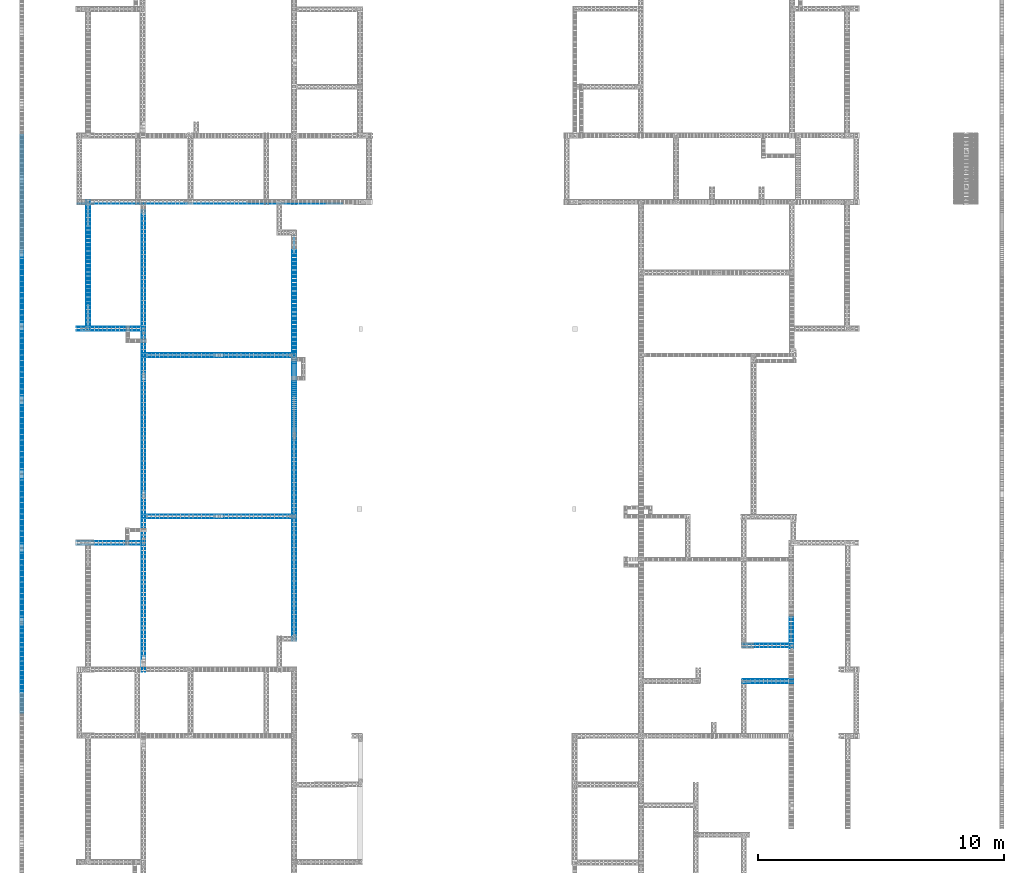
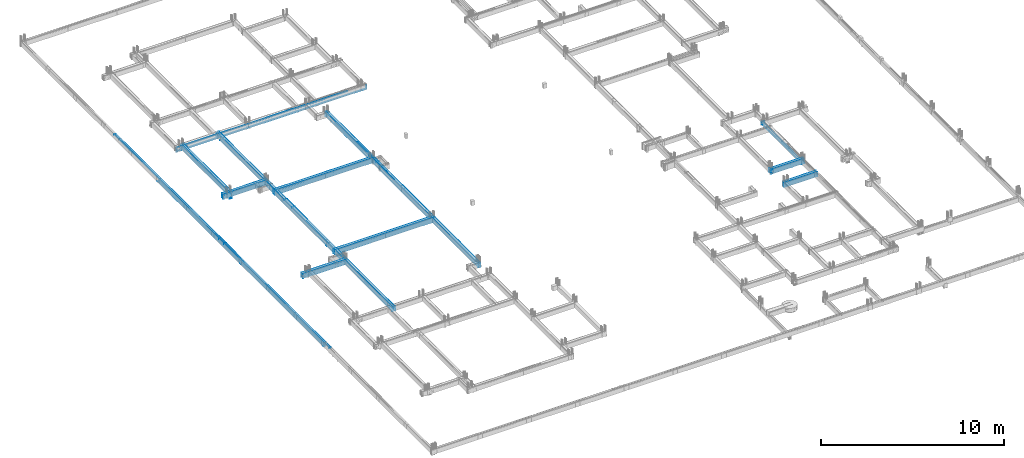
# One storey, part 10 of 150: 60 reinforcing bars.
"""IFC4 building model written with IfcOpenShell, lengths in centimetres."""

from ifc_helpers import new_model, entity, si_unit, derived_unit, frame, origin_with_axes, place, context, project, spatial, element, save


model = new_model("IFC4")

# Units and contexts
model_context = context("Model", 3, precision=1e-05, world=origin_with_axes(), identifier="Body")
ifc_project = project(units=[si_unit("LENGTHUNIT", "METRE", prefix="CENTI"), si_unit("VOLUMEUNIT", "CUBIC_METRE"), si_unit("AREAUNIT", "SQUARE_METRE"), si_unit("POWERUNIT", "WATT"), si_unit("LUMINOUSFLUXUNIT", "LUMEN"), si_unit("ELECTRICCURRENTUNIT", "AMPERE"), si_unit("PRESSUREUNIT", "PASCAL", prefix="KILO"), si_unit("MASSUNIT", "GRAM", prefix="KILO"), si_unit("PLANEANGLEUNIT", "RADIAN"), derived_unit("VOLUMETRICFLOWRATEUNIT", [(si_unit("LENGTHUNIT", "METRE"), 3), (si_unit("TIMEUNIT", "SECOND"), -1)])], contexts=[model_context])

# Site, building, storey
site_placement = place(None, frame((-4000.0, 0.0, 0.0), z_axis=(0.0, 0.0, 1.0), x_axis=(1.0, 0.0, 0.0)))
site = spatial("IfcSite", under=ifc_project, at=site_placement, Name="PADRÃO")
building_placement = place(site_placement, frame((0.0, 0.0, -14.0)))
building = spatial("IfcBuilding", under=site, at=building_placement, Name="CRECHE PRÉ-ESCOLA TIPO 2")
placement = place(building_placement, origin_with_axes())
storey_placement = place(placement, frame((0.0, 0.0, 30.0), z_axis=(0.0, 0.0, 1.0), x_axis=(1.0, 0.0, 0.0)))
storey = spatial("IfcBuildingStorey", under=building, at=storey_placement, Name="VIGA BALDRAME", CompositionType="ELEMENT", Elevation=16.0)

# Reinforcing bars
reinforcing_bar_1_placement = place(storey_placement, frame((463.7381248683, 3192.92, -3.2095935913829), z_axis=(0.0, 0.0, 1.0), x_axis=(1.0, 0.0, 0.0)))
element("IfcReinforcingBar", 1, at=reinforcing_bar_1_placement, inside=storey, Name="V113 - Longitudinal inferior", BarLength=0.0, CrossSectionArea=5.0265482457e-05, NominalDiameter=0.8, PredefinedType="MAIN", context=model_context, shape_type="AdvancedSweptSolid", body=[
    entity("IfcSweptDiskSolid", entity("IfcCompositeCurve", [entity("IfcCompositeCurveSegment", "CONTINUOUS", True, entity("IfcPolyline", [entity("IfcCartesianPoint", [-227.5981248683, 0.0, 0.0]), entity("IfcCartesianPoint", [-227.5981248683, 0.0, -23.8904064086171])])), entity("IfcCompositeCurveSegment", "CONTINUOUS", True, entity("IfcPolyline", [entity("IfcCartesianPoint", [-227.5981248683, 0.0, -23.8904064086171]), entity("IfcCartesianPoint", [228.0018751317, 0.0, -23.8904064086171])]))], False), 0.4),
])
reinforcing_bar_2_placement = place(storey_placement, frame((1054.51734391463, 3193.02, -4.15402858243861), z_axis=(0.0, 0.0, 1.0), x_axis=(1.0, 0.0, 0.0)))
element("IfcReinforcingBar", 2, at=reinforcing_bar_2_placement, inside=storey, Name="V113 - Longitudinal inferior", BarLength=0.0, CrossSectionArea=7.853981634e-05, NominalDiameter=1.0, PredefinedType="MAIN", context=model_context, shape_type="AdvancedSweptSolid", body=[
    entity("IfcSweptDiskSolid", entity("IfcCompositeCurve", [entity("IfcCompositeCurveSegment", "CONTINUOUS", True, entity("IfcPolyline", [entity("IfcCartesianPoint", [-374.517343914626, 0.0, -22.8459714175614]), entity("IfcCartesianPoint", [374.012656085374, 0.0, -22.8459714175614])])), entity("IfcCompositeCurveSegment", "CONTINUOUS", True, entity("IfcPolyline", [entity("IfcCartesianPoint", [374.012656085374, 0.0, -22.8459714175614]), entity("IfcCartesianPoint", [374.012656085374, 0.0, 0.0])]))], False), 0.5),
])
reinforcing_bar_3_placement = place(storey_placement, frame((773.252656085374, 3193.02, -2.49531217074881), z_axis=(0.0, 0.0, 1.0), x_axis=(1.0, 0.0, 0.0)))
element("IfcReinforcingBar", 3, at=reinforcing_bar_3_placement, inside=storey, Name="V113 - Longitudinal superior", BarLength=0.0, CrossSectionArea=7.853981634e-05, NominalDiameter=1.0, PredefinedType="MAIN", context=model_context, shape_type="AdvancedSweptSolid", body=[
    entity("IfcSweptDiskSolid", entity("IfcCompositeCurve", [entity("IfcCompositeCurveSegment", "CONTINUOUS", True, entity("IfcPolyline", [entity("IfcCartesianPoint", [-537.012656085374, 0.0, -26.5046878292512]), entity("IfcCartesianPoint", [-537.012656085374, 0.0, -0.504687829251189])])), entity("IfcCompositeCurveSegment", "CONTINUOUS", True, entity("IfcPolyline", [entity("IfcCartesianPoint", [-537.012656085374, 0.0, -0.504687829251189]), entity("IfcCartesianPoint", [537.517343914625, 0.0, -0.504687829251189])]))], False), 0.5),
])
for number, where, z_axis, x_axis, name in (
    (4, (370.87, 2692.11, -26.7), (0.0, 0.0, 1.0), (1.0, 0.0, 0.0), "V117 - Longitudinal inferior"),
    (5, (370.87, 2677.91, -26.7), (0.0, 0.0, 1.0), (1.0, 0.0, 0.0), "V117 - Longitudinal inferior"),
):
    element("IfcReinforcingBar", number, at=place(storey_placement, frame(where, z_axis=z_axis, x_axis=x_axis)), inside=storey, Name=name, BarLength=0.0, CrossSectionArea=5.0265482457e-05, NominalDiameter=0.8, PredefinedType="MAIN", context=model_context, shape_type="AdvancedSweptSolid", body=[
        entity("IfcSweptDiskSolid", entity("IfcCompositeCurve", [entity("IfcCompositeCurveSegment", "CONTINUOUS", True, entity("IfcPolyline", [entity("IfcCartesianPoint", [-137.82, 0.0, -0.4]), entity("IfcCartesianPoint", [137.82, 0.0, -0.4])]))], False), 0.4),
    ])
for number, where, z_axis, x_axis, name in (
    (6, (370.87, 2677.91, -2.49624973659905), (0.0, 0.0, 1.0), (1.0, 0.0, 0.0), "V117 - Longitudinal superior"),
    (7, (370.87, 2692.11, -2.49624973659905), (0.0, 0.0, 1.0), (1.0, 0.0, 0.0), "V117 - Longitudinal superior"),
):
    element("IfcReinforcingBar", number, at=place(storey_placement, frame(where, z_axis=z_axis, x_axis=x_axis)), inside=storey, Name=name, BarLength=0.0, CrossSectionArea=5.0265482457e-05, NominalDiameter=0.8, PredefinedType="MAIN", context=model_context, shape_type="AdvancedSweptSolid", body=[
        entity("IfcSweptDiskSolid", entity("IfcCompositeCurve", [entity("IfcCompositeCurveSegment", "CONTINUOUS", True, entity("IfcPolyline", [entity("IfcCartesianPoint", [-137.42, 0.0, -26.403750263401]), entity("IfcCartesianPoint", [-137.42, 0.0, -0.403750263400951])])), entity("IfcCompositeCurveSegment", "CONTINUOUS", True, entity("IfcPolyline", [entity("IfcCartesianPoint", [-137.42, 0.0, -0.403750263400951]), entity("IfcCartesianPoint", [137.42, 0.0, -0.403750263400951])])), entity("IfcCompositeCurveSegment", "CONTINUOUS", True, entity("IfcPolyline", [entity("IfcCartesianPoint", [137.42, 0.0, -0.403750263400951]), entity("IfcCartesianPoint", [137.42, 0.0, -24.2941566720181])]))], False), 0.4),
    ])
for number, where, z_axis, x_axis, name in (
    (8, (809.205, 2584.5, -26.5), (0.0, 0.0, 1.0), (1.0, 0.0, 0.0), "V120 - Longitudinal inferior"),
    (9, (809.205, 2570.5, -26.5), (0.0, 0.0, 1.0), (1.0, 0.0, 0.0), "V120 - Longitudinal inferior"),
):
    element("IfcReinforcingBar", number, at=place(storey_placement, frame(where, z_axis=z_axis, x_axis=x_axis)), inside=storey, Name=name, BarLength=0.0, CrossSectionArea=7.853981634e-05, NominalDiameter=1.0, PredefinedType="MAIN", context=model_context, shape_type="AdvancedSweptSolid", body=[
        entity("IfcSweptDiskSolid", entity("IfcCompositeCurve", [entity("IfcCompositeCurveSegment", "CONTINUOUS", True, entity("IfcPolyline", [entity("IfcCartesianPoint", [-313.515, 0.0, -0.5]), entity("IfcCartesianPoint", [313.515, 0.0, -0.5])]))], False), 0.5),
    ])
for number, where, z_axis, x_axis, name in (
    (10, (809.205, 2570.5, -2.49531217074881), (0.0, 0.0, 1.0), (1.0, 0.0, 0.0), "V120 - Longitudinal superior"),
    (11, (809.205, 2584.5, -2.49531217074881), (0.0, 0.0, 1.0), (1.0, 0.0, 0.0), "V120 - Longitudinal superior"),
):
    element("IfcReinforcingBar", number, at=place(storey_placement, frame(where, z_axis=z_axis, x_axis=x_axis)), inside=storey, Name=name, BarLength=0.0, CrossSectionArea=7.853981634e-05, NominalDiameter=1.0, PredefinedType="MAIN", context=model_context, shape_type="AdvancedSweptSolid", body=[
        entity("IfcSweptDiskSolid", entity("IfcCompositeCurve", [entity("IfcCompositeCurveSegment", "CONTINUOUS", True, entity("IfcPolyline", [entity("IfcCartesianPoint", [-313.015, 0.0, -26.5046878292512]), entity("IfcCartesianPoint", [-313.015, 0.0, -0.504687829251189])])), entity("IfcCompositeCurveSegment", "CONTINUOUS", True, entity("IfcPolyline", [entity("IfcCartesianPoint", [-313.015, 0.0, -0.504687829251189]), entity("IfcCartesianPoint", [313.015, 0.0, -0.504687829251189])])), entity("IfcCompositeCurveSegment", "CONTINUOUS", True, entity("IfcPolyline", [entity("IfcCartesianPoint", [313.015, 0.0, -0.504687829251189]), entity("IfcCartesianPoint", [313.015, 0.0, -10.5046878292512])]))], False), 0.5),
    ])
for number, where, z_axis, x_axis, name in (
    (12, (809.205, 1915.5, -26.5), (0.0, 0.0, 1.0), (1.0, 0.0, 0.0), "V125 - Longitudinal inferior"),
    (13, (809.205, 1929.5, -26.5), (0.0, 0.0, 1.0), (1.0, 0.0, 0.0), "V125 - Longitudinal inferior"),
):
    element("IfcReinforcingBar", number, at=place(storey_placement, frame(where, z_axis=z_axis, x_axis=x_axis)), inside=storey, Name=name, BarLength=0.0, CrossSectionArea=7.853981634e-05, NominalDiameter=1.0, PredefinedType="MAIN", context=model_context, shape_type="AdvancedSweptSolid", body=[
        entity("IfcSweptDiskSolid", entity("IfcCompositeCurve", [entity("IfcCompositeCurveSegment", "CONTINUOUS", True, entity("IfcPolyline", [entity("IfcCartesianPoint", [-313.515, 0.0, -0.5]), entity("IfcCartesianPoint", [313.515, 0.0, -0.5])]))], False), 0.5),
    ])
for number, where, z_axis, x_axis, name in (
    (14, (809.205, 1915.5, -2.49531217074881), (0.0, 0.0, 1.0), (1.0, 0.0, 0.0), "V125 - Longitudinal superior"),
    (15, (809.205, 1929.5, -2.49531217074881), (0.0, 0.0, 1.0), (1.0, 0.0, 0.0), "V125 - Longitudinal superior"),
):
    element("IfcReinforcingBar", number, at=place(storey_placement, frame(where, z_axis=z_axis, x_axis=x_axis)), inside=storey, Name=name, BarLength=0.0, CrossSectionArea=7.853981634e-05, NominalDiameter=1.0, PredefinedType="MAIN", context=model_context, shape_type="AdvancedSweptSolid", body=[
        entity("IfcSweptDiskSolid", entity("IfcCompositeCurve", [entity("IfcCompositeCurveSegment", "CONTINUOUS", True, entity("IfcPolyline", [entity("IfcCartesianPoint", [-313.015, 0.0, -26.5046878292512]), entity("IfcCartesianPoint", [-313.015, 0.0, -0.504687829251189])])), entity("IfcCompositeCurveSegment", "CONTINUOUS", True, entity("IfcPolyline", [entity("IfcCartesianPoint", [-313.015, 0.0, -0.504687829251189]), entity("IfcCartesianPoint", [313.015, 0.0, -0.504687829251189])])), entity("IfcCompositeCurveSegment", "CONTINUOUS", True, entity("IfcPolyline", [entity("IfcCartesianPoint", [313.015, 0.0, -0.504687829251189]), entity("IfcCartesianPoint", [313.015, 0.0, -10.5046878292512])]))], False), 0.5),
    ])
for number, where, z_axis, x_axis, name in (
    (16, (370.892343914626, 1822.0, -15.0), (0.0, 0.0, 1.0), (1.0, 0.0, 0.0), "V130 - Longitudinal inferior"),
    (17, (370.892343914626, 1808.0, -15.0), (0.0, 0.0, 1.0), (1.0, 0.0, 0.0), "V130 - Longitudinal inferior"),
):
    element("IfcReinforcingBar", number, at=place(storey_placement, frame(where, z_axis=z_axis, x_axis=x_axis)), inside=storey, Name=name, BarLength=0.0, CrossSectionArea=7.853981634e-05, NominalDiameter=1.0, PredefinedType="MAIN", context=model_context, shape_type="AdvancedSweptSolid", body=[
        entity("IfcSweptDiskSolid", entity("IfcCompositeCurve", [entity("IfcCompositeCurveSegment", "CONTINUOUS", True, entity("IfcPolyline", [entity("IfcCartesianPoint", [-137.802343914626, 0.0, -12.0]), entity("IfcCartesianPoint", [137.297656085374, 0.0, -12.0])])), entity("IfcCompositeCurveSegment", "CONTINUOUS", True, entity("IfcPolyline", [entity("IfcCartesianPoint", [137.297656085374, 0.0, -12.0]), entity("IfcCartesianPoint", [137.297656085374, 0.0, 0.0])]))], False), 0.5),
    ])
for number, where, z_axis, x_axis, name in (
    (18, (370.89, 1808.0, -2.49531217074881), (0.0, 0.0, 1.0), (1.0, 0.0, 0.0), "V130 - Longitudinal superior"),
    (19, (370.89, 1822.0, -2.49531217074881), (0.0, 0.0, 1.0), (1.0, 0.0, 0.0), "V130 - Longitudinal superior"),
):
    element("IfcReinforcingBar", number, at=place(storey_placement, frame(where, z_axis=z_axis, x_axis=x_axis)), inside=storey, Name=name, BarLength=0.0, CrossSectionArea=7.853981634e-05, NominalDiameter=1.0, PredefinedType="MAIN", context=model_context, shape_type="AdvancedSweptSolid", body=[
        entity("IfcSweptDiskSolid", entity("IfcCompositeCurve", [entity("IfcCompositeCurveSegment", "CONTINUOUS", True, entity("IfcPolyline", [entity("IfcCartesianPoint", [-137.3, 0.0, -26.5046878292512]), entity("IfcCartesianPoint", [-137.3, 0.0, -0.504687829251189])])), entity("IfcCompositeCurveSegment", "CONTINUOUS", True, entity("IfcPolyline", [entity("IfcCartesianPoint", [-137.3, 0.0, -0.504687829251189]), entity("IfcCartesianPoint", [137.3, 0.0, -0.504687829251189])])), entity("IfcCompositeCurveSegment", "CONTINUOUS", True, entity("IfcPolyline", [entity("IfcCartesianPoint", [137.3, 0.0, -0.504687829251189]), entity("IfcCartesianPoint", [137.3, 0.0, -19.6170129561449])]))], False), 0.5),
    ])
for number, where, z_axis, x_axis, name in (
    (20, (3040.8681248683, 1390.41, -17.1), (0.0, 0.0, 1.0), (1.0, 0.0, 0.0), "V135 - Longitudinal inferior"),
    (21, (3040.8681248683, 1404.61, -17.1), (0.0, 0.0, 1.0), (1.0, 0.0, 0.0), "V135 - Longitudinal inferior"),
):
    element("IfcReinforcingBar", number, at=place(storey_placement, frame(where, z_axis=z_axis, x_axis=x_axis)), inside=storey, Name=name, BarLength=0.0, CrossSectionArea=5.0265482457e-05, NominalDiameter=0.8, PredefinedType="MAIN", context=model_context, shape_type="AdvancedSweptSolid", body=[
        entity("IfcSweptDiskSolid", entity("IfcCompositeCurve", [entity("IfcCompositeCurveSegment", "CONTINUOUS", True, entity("IfcPolyline", [entity("IfcCartesianPoint", [-102.2281248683, 0.0, 0.0]), entity("IfcCartesianPoint", [-102.2281248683, 0.0, -10.0])])), entity("IfcCompositeCurveSegment", "CONTINUOUS", True, entity("IfcPolyline", [entity("IfcCartesianPoint", [-102.2281248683, 0.0, -10.0]), entity("IfcCartesianPoint", [102.6318751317, 0.0, -10.0])]))], False), 0.4),
    ])
for number, where, z_axis, x_axis, name in (
    (22, (3040.87, 1404.61, -2.49624973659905), (0.0, 0.0, 1.0), (1.0, 0.0, 0.0), "V135 - Longitudinal superior"),
    (23, (3040.87, 1390.41, -2.49624973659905), (0.0, 0.0, 1.0), (1.0, 0.0, 0.0), "V135 - Longitudinal superior"),
):
    element("IfcReinforcingBar", number, at=place(storey_placement, frame(where, z_axis=z_axis, x_axis=x_axis)), inside=storey, Name=name, BarLength=0.0, CrossSectionArea=5.0265482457e-05, NominalDiameter=0.8, PredefinedType="MAIN", context=model_context, shape_type="AdvancedSweptSolid", body=[
        entity("IfcSweptDiskSolid", entity("IfcCompositeCurve", [entity("IfcCompositeCurveSegment", "CONTINUOUS", True, entity("IfcPolyline", [entity("IfcCartesianPoint", [-102.23, 0.0, -24.2941566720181]), entity("IfcCartesianPoint", [-102.23, 0.0, -0.403750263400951])])), entity("IfcCompositeCurveSegment", "CONTINUOUS", True, entity("IfcPolyline", [entity("IfcCartesianPoint", [-102.23, 0.0, -0.403750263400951]), entity("IfcCartesianPoint", [102.23, 0.0, -0.403750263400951])])), entity("IfcCompositeCurveSegment", "CONTINUOUS", True, entity("IfcPolyline", [entity("IfcCartesianPoint", [102.23, 0.0, -0.403750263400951]), entity("IfcCartesianPoint", [102.23, 0.0, -24.2941566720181])]))], False), 0.4),
    ])
for number, where, z_axis, x_axis, name in (
    (24, (3041.12, 1245.42, -26.7), (0.0, 0.0, 1.0), (1.0, 0.0, 0.0), "V138 - Longitudinal inferior"),
    (25, (3041.12, 1259.62, -26.7), (0.0, 0.0, 1.0), (1.0, 0.0, 0.0), "V138 - Longitudinal inferior"),
):
    element("IfcReinforcingBar", number, at=place(storey_placement, frame(where, z_axis=z_axis, x_axis=x_axis)), inside=storey, Name=name, BarLength=0.0, CrossSectionArea=5.0265482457e-05, NominalDiameter=0.8, PredefinedType="MAIN", context=model_context, shape_type="AdvancedSweptSolid", body=[
        entity("IfcSweptDiskSolid", entity("IfcCompositeCurve", [entity("IfcCompositeCurveSegment", "CONTINUOUS", True, entity("IfcPolyline", [entity("IfcCartesianPoint", [-102.88, 0.0, -0.4]), entity("IfcCartesianPoint", [102.88, 0.0, -0.4])]))], False), 0.4),
    ])
for number, where, z_axis, x_axis, name in (
    (26, (3041.12, 1245.645, -2.49414021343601), (0.0, 0.0, 1.0), (1.0, 0.0, 0.0), "V138 - Longitudinal superior"),
    (27, (3041.12, 1259.395, -2.49414021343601), (0.0, 0.0, 1.0), (1.0, 0.0, 0.0), "V138 - Longitudinal superior"),
):
    element("IfcReinforcingBar", number, at=place(storey_placement, frame(where, z_axis=z_axis, x_axis=x_axis)), inside=storey, Name=name, BarLength=0.0, CrossSectionArea=0.000122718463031, NominalDiameter=1.25, PredefinedType="MAIN", context=model_context, shape_type="AdvancedSweptSolid", body=[
        entity("IfcSweptDiskSolid", entity("IfcCompositeCurve", [entity("IfcCompositeCurveSegment", "CONTINUOUS", True, entity("IfcPolyline", [entity("IfcCartesianPoint", [-102.255, 0.0, -15.005859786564]), entity("IfcCartesianPoint", [-102.255, 0.0, -0.630859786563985])])), entity("IfcCompositeCurveSegment", "CONTINUOUS", True, entity("IfcPolyline", [entity("IfcCartesianPoint", [-102.255, 0.0, -0.630859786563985]), entity("IfcCartesianPoint", [102.255, 0.0, -0.630859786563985])])), entity("IfcCompositeCurveSegment", "CONTINUOUS", True, entity("IfcPolyline", [entity("IfcCartesianPoint", [102.255, 0.0, -0.630859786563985]), entity("IfcCartesianPoint", [102.255, 0.0, -26.630859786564])]))], False), 0.625),
    ])
for number, where, z_axis, x_axis, name in (
    (28, (4.4, 1644.5, -26.7), (0.0, 0.0, 1.0), (1.0, 0.0, 0.0), "V159 - Longitudinal inferior"),
    (29, (13.6, 1644.5, -26.7), (0.0, 0.0, 1.0), (1.0, 0.0, 0.0), "V159 - Longitudinal inferior"),
    (30, (4.4, 2544.5, -26.7), (0.0, 0.0, 1.0), (1.0, 0.0, 0.0), "V159 - Longitudinal inferior"),
    (31, (13.6, 2544.5, -26.7), (0.0, 0.0, 1.0), (1.0, 0.0, 0.0), "V159 - Longitudinal inferior"),
):
    element("IfcReinforcingBar", number, at=place(storey_placement, frame(where, z_axis=z_axis, x_axis=x_axis)), inside=storey, Name=name, BarLength=0.0, CrossSectionArea=5.0265482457e-05, NominalDiameter=0.8, PredefinedType="MAIN", context=model_context, shape_type="AdvancedSweptSolid", body=[
        entity("IfcSweptDiskSolid", entity("IfcCompositeCurve", [entity("IfcCompositeCurveSegment", "CONTINUOUS", True, entity("IfcPolyline", [entity("IfcCartesianPoint", [0.0, -455.0, -0.4]), entity("IfcCartesianPoint", [0.0, 455.0, -0.4])]))], False), 0.4),
    ])
for number, where, z_axis, x_axis, name in (
    (32, (4.4, 1724.66041409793, -2.5), (0.0, 0.0, 1.0), (1.0, 0.0, 0.0), "V159 - Longitudinal superior"),
    (33, (13.6, 1724.66041409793, -2.5), (0.0, 0.0, 1.0), (1.0, 0.0, 0.0), "V159 - Longitudinal superior"),
    (34, (4.4, 2870.66041409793, -2.5), (0.0, 0.0, 1.0), (1.0, 0.0, 0.0), "V159 - Longitudinal superior"),
    (35, (13.6, 2870.66041409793, -2.5), (0.0, 0.0, 1.0), (1.0, 0.0, 0.0), "V159 - Longitudinal superior"),
):
    element("IfcReinforcingBar", number, at=place(storey_placement, frame(where, z_axis=z_axis, x_axis=x_axis)), inside=storey, Name=name, BarLength=0.0, CrossSectionArea=5.0265482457e-05, NominalDiameter=0.8, PredefinedType="MAIN", context=model_context, shape_type="AdvancedSweptSolid", body=[
        entity("IfcSweptDiskSolid", entity("IfcCompositeCurve", [entity("IfcCompositeCurveSegment", "CONTINUOUS", True, entity("IfcPolyline", [entity("IfcCartesianPoint", [0.0, -600.0, -0.4]), entity("IfcCartesianPoint", [0.0, 600.0, -0.4])]))], False), 0.4),
    ])
reinforcing_bar_4_placement = place(storey_placement, frame((285.875, 2942.005, -11.875), z_axis=(0.0, 0.0, 1.0), x_axis=(1.0, 0.0, 0.0)))
element("IfcReinforcingBar", 36, at=reinforcing_bar_4_placement, inside=storey, Name="V163 - Longitudinal inferior", BarLength=0.0, CrossSectionArea=0.000122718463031, NominalDiameter=1.25, PredefinedType="MAIN", context=model_context, shape_type="AdvancedSweptSolid", body=[
    entity("IfcSweptDiskSolid", entity("IfcCompositeCurve", [entity("IfcCompositeCurveSegment", "CONTINUOUS", True, entity("IfcPolyline", [entity("IfcCartesianPoint", [0.0, -264.37, 0.0]), entity("IfcCartesianPoint", [0.0, -264.37, -15.0])])), entity("IfcCompositeCurveSegment", "CONTINUOUS", True, entity("IfcPolyline", [entity("IfcCartesianPoint", [0.0, -264.37, -15.0]), entity("IfcCartesianPoint", [0.0, 264.37, -15.0])])), entity("IfcCompositeCurveSegment", "CONTINUOUS", True, entity("IfcPolyline", [entity("IfcCartesianPoint", [0.0, 264.37, -15.0]), entity("IfcCartesianPoint", [0.0, 264.37, 0.0])]))], False), 0.625),
])
reinforcing_bar_5_placement = place(storey_placement, frame((279.0, 2942.005, -26.25), z_axis=(0.0, 0.0, 1.0), x_axis=(1.0, 0.0, 0.0)))
element("IfcReinforcingBar", 37, at=reinforcing_bar_5_placement, inside=storey, Name="V163 - Longitudinal inferior", BarLength=0.0, CrossSectionArea=0.000122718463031, NominalDiameter=1.25, PredefinedType="MAIN", context=model_context, shape_type="AdvancedSweptSolid", body=[
    entity("IfcSweptDiskSolid", entity("IfcCompositeCurve", [entity("IfcCompositeCurveSegment", "CONTINUOUS", True, entity("IfcPolyline", [entity("IfcCartesianPoint", [0.0, -153.495, -0.625]), entity("IfcCartesianPoint", [0.0, 153.495, -0.625])]))], False), 0.625),
])
reinforcing_bar_6_placement = place(storey_placement, frame((272.125, 2942.005, -11.875), z_axis=(0.0, 0.0, 1.0), x_axis=(1.0, 0.0, 0.0)))
element("IfcReinforcingBar", 38, at=reinforcing_bar_6_placement, inside=storey, Name="V163 - Longitudinal inferior", BarLength=0.0, CrossSectionArea=0.000122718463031, NominalDiameter=1.25, PredefinedType="MAIN", context=model_context, shape_type="AdvancedSweptSolid", body=[
    entity("IfcSweptDiskSolid", entity("IfcCompositeCurve", [entity("IfcCompositeCurveSegment", "CONTINUOUS", True, entity("IfcPolyline", [entity("IfcCartesianPoint", [0.0, -264.37, 0.0]), entity("IfcCartesianPoint", [0.0, -264.37, -15.0])])), entity("IfcCompositeCurveSegment", "CONTINUOUS", True, entity("IfcPolyline", [entity("IfcCartesianPoint", [0.0, -264.37, -15.0]), entity("IfcCartesianPoint", [0.0, 264.37, -15.0])])), entity("IfcCompositeCurveSegment", "CONTINUOUS", True, entity("IfcPolyline", [entity("IfcCartesianPoint", [0.0, 264.37, -15.0]), entity("IfcCartesianPoint", [0.0, 264.37, 0.0])]))], False), 0.625),
])
for number, where, z_axis, x_axis, name in (
    (39, (272.125, 2942.005, -2.49414021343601), (0.0, 0.0, 1.0), (1.0, 0.0, 0.0), "V163 - Longitudinal superior"),
    (40, (285.875, 2942.005, -2.49414021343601), (0.0, 0.0, 1.0), (1.0, 0.0, 0.0), "V163 - Longitudinal superior"),
):
    element("IfcReinforcingBar", number, at=place(storey_placement, frame(where, z_axis=z_axis, x_axis=x_axis)), inside=storey, Name=name, BarLength=0.0, CrossSectionArea=0.000122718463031, NominalDiameter=1.25, PredefinedType="MAIN", context=model_context, shape_type="AdvancedSweptSolid", body=[
        entity("IfcSweptDiskSolid", entity("IfcCompositeCurve", [entity("IfcCompositeCurveSegment", "CONTINUOUS", True, entity("IfcPolyline", [entity("IfcCartesianPoint", [0.0, -264.37, -39.6161464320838]), entity("IfcCartesianPoint", [0.0, -264.37, -0.630859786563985])])), entity("IfcCompositeCurveSegment", "CONTINUOUS", True, entity("IfcPolyline", [entity("IfcCartesianPoint", [0.0, -264.37, -0.630859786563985]), entity("IfcCartesianPoint", [0.0, 264.37, -0.630859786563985])])), entity("IfcCompositeCurveSegment", "CONTINUOUS", True, entity("IfcPolyline", [entity("IfcCartesianPoint", [0.0, 264.37, -0.630859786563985]), entity("IfcCartesianPoint", [0.0, 264.37, -38.9800915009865])]))], False), 0.625),
    ])
for number, where, z_axis, x_axis, name in (
    (41, (510.565, 1652.74707010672, -11.5851398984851), (0.0, 0.0, 1.0), (1.0, 0.0, 0.0), "V171 - Longitudinal inferior"),
    (42, (496.815, 1652.74707010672, -11.5851398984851), (0.0, 0.0, 1.0), (1.0, 0.0, 0.0), "V171 - Longitudinal inferior"),
):
    element("IfcReinforcingBar", number, at=place(storey_placement, frame(where, z_axis=z_axis, x_axis=x_axis)), inside=storey, Name=name, BarLength=0.0, CrossSectionArea=0.000122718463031, NominalDiameter=1.25, PredefinedType="MAIN", context=model_context, shape_type="AdvancedSweptSolid", body=[
        entity("IfcSweptDiskSolid", entity("IfcCompositeCurve", [entity("IfcCompositeCurveSegment", "CONTINUOUS", True, entity("IfcPolyline", [entity("IfcCartesianPoint", [0.0, -360.122070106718, 0.0]), entity("IfcCartesianPoint", [0.0, -360.122070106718, -15.2898601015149])])), entity("IfcCompositeCurveSegment", "CONTINUOUS", True, entity("IfcPolyline", [entity("IfcCartesianPoint", [0.0, -360.122070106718, -15.2898601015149]), entity("IfcCartesianPoint", [0.0, 360.752929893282, -15.2898601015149])]))], False), 0.625),
    ])
for number, where, z_axis, x_axis, name in (
    (43, (510.565, 2585.0, -26.25), (0.0, 0.0, 1.0), (1.0, 0.0, 0.0), "V171 - Longitudinal inferior"),
    (44, (496.815, 2585.0, -26.25), (0.0, 0.0, 1.0), (1.0, 0.0, 0.0), "V171 - Longitudinal inferior"),
):
    element("IfcReinforcingBar", number, at=place(storey_placement, frame(where, z_axis=z_axis, x_axis=x_axis)), inside=storey, Name=name, BarLength=0.0, CrossSectionArea=0.000122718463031, NominalDiameter=1.25, PredefinedType="MAIN", context=model_context, shape_type="AdvancedSweptSolid", body=[
        entity("IfcSweptDiskSolid", entity("IfcCompositeCurve", [entity("IfcCompositeCurveSegment", "CONTINUOUS", True, entity("IfcPolyline", [entity("IfcCartesianPoint", [0.0, -581.5, -0.625]), entity("IfcCartesianPoint", [0.0, 581.5, -0.625])]))], False), 0.625),
    ])
reinforcing_bar_7_placement = place(storey_placement, frame((496.815, 1878.99707010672, -2.49414021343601), z_axis=(0.0, 0.0, 1.0), x_axis=(1.0, 0.0, 0.0)))
element("IfcReinforcingBar", 45, at=reinforcing_bar_7_placement, inside=storey, Name="V171 - Longitudinal superior", BarLength=0.0, CrossSectionArea=0.000122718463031, NominalDiameter=1.25, PredefinedType="MAIN", context=model_context, shape_type="AdvancedSweptSolid", body=[
    entity("IfcSweptDiskSolid", entity("IfcCompositeCurve", [entity("IfcCompositeCurveSegment", "CONTINUOUS", True, entity("IfcPolyline", [entity("IfcCartesianPoint", [0.0, -586.372070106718, -26.630859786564]), entity("IfcCartesianPoint", [0.0, -586.372070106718, -0.630859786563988])])), entity("IfcCompositeCurveSegment", "CONTINUOUS", True, entity("IfcPolyline", [entity("IfcCartesianPoint", [0.0, -586.372070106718, -0.630859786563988]), entity("IfcCartesianPoint", [0.0, 587.002929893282, -0.630859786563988])]))], False), 0.625),
])
reinforcing_bar_8_placement = place(storey_placement, frame((496.815, 2796.01292989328, -2.49414021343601), z_axis=(0.0, 0.0, 1.0), x_axis=(1.0, 0.0, 0.0)))
element("IfcReinforcingBar", 46, at=reinforcing_bar_8_placement, inside=storey, Name="V171 - Longitudinal superior", BarLength=0.0, CrossSectionArea=0.000122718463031, NominalDiameter=1.25, PredefinedType="MAIN", context=model_context, shape_type="AdvancedSweptSolid", body=[
    entity("IfcSweptDiskSolid", entity("IfcCompositeCurve", [entity("IfcCompositeCurveSegment", "CONTINUOUS", True, entity("IfcPolyline", [entity("IfcCartesianPoint", [0.0, -412.012929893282, -0.630859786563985]), entity("IfcCartesianPoint", [0.0, 411.382070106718, -0.630859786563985])])), entity("IfcCompositeCurveSegment", "CONTINUOUS", True, entity("IfcPolyline", [entity("IfcCartesianPoint", [0.0, 411.382070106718, -0.630859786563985]), entity("IfcCartesianPoint", [0.0, 411.382070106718, -26.630859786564])]))], False), 0.625),
])
reinforcing_bar_9_placement = place(storey_placement, frame((510.565, 1878.99707010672, -2.49414021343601), z_axis=(0.0, 0.0, 1.0), x_axis=(1.0, 0.0, 0.0)))
element("IfcReinforcingBar", 47, at=reinforcing_bar_9_placement, inside=storey, Name="V171 - Longitudinal superior", BarLength=0.0, CrossSectionArea=0.000122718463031, NominalDiameter=1.25, PredefinedType="MAIN", context=model_context, shape_type="AdvancedSweptSolid", body=[
    entity("IfcSweptDiskSolid", entity("IfcCompositeCurve", [entity("IfcCompositeCurveSegment", "CONTINUOUS", True, entity("IfcPolyline", [entity("IfcCartesianPoint", [0.0, -586.372070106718, -26.630859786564]), entity("IfcCartesianPoint", [0.0, -586.372070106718, -0.630859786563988])])), entity("IfcCompositeCurveSegment", "CONTINUOUS", True, entity("IfcPolyline", [entity("IfcCartesianPoint", [0.0, -586.372070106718, -0.630859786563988]), entity("IfcCartesianPoint", [0.0, 587.002929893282, -0.630859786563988])]))], False), 0.625),
])
reinforcing_bar_10_placement = place(storey_placement, frame((510.565, 2796.01292989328, -2.49414021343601), z_axis=(0.0, 0.0, 1.0), x_axis=(1.0, 0.0, 0.0)))
element("IfcReinforcingBar", 48, at=reinforcing_bar_10_placement, inside=storey, Name="V171 - Longitudinal superior", BarLength=0.0, CrossSectionArea=0.000122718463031, NominalDiameter=1.25, PredefinedType="MAIN", context=model_context, shape_type="AdvancedSweptSolid", body=[
    entity("IfcSweptDiskSolid", entity("IfcCompositeCurve", [entity("IfcCompositeCurveSegment", "CONTINUOUS", True, entity("IfcPolyline", [entity("IfcCartesianPoint", [0.0, -412.012929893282, -0.630859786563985]), entity("IfcCartesianPoint", [0.0, 411.382070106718, -0.630859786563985])])), entity("IfcCompositeCurveSegment", "CONTINUOUS", True, entity("IfcPolyline", [entity("IfcCartesianPoint", [0.0, 411.382070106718, -0.630859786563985]), entity("IfcCartesianPoint", [0.0, 411.382070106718, -26.630859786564])]))], False), 0.625),
])
for number, where, z_axis, x_axis, name in (
    (49, (1109.125, 2823.00292989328, -11.875), (0.0, 0.0, 1.0), (1.0, 0.0, 0.0), "V183 - Longitudinal inferior"),
    (50, (1122.875, 2823.00292989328, -11.875), (0.0, 0.0, 1.0), (1.0, 0.0, 0.0), "V183 - Longitudinal inferior"),
):
    element("IfcReinforcingBar", number, at=place(storey_placement, frame(where, z_axis=z_axis, x_axis=x_axis)), inside=storey, Name=name, BarLength=0.0, CrossSectionArea=0.000122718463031, NominalDiameter=1.25, PredefinedType="MAIN", context=model_context, shape_type="AdvancedSweptSolid", body=[
        entity("IfcSweptDiskSolid", entity("IfcCompositeCurve", [entity("IfcCompositeCurveSegment", "CONTINUOUS", True, entity("IfcPolyline", [entity("IfcCartesianPoint", [0.0, -258.502929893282, -15.0]), entity("IfcCartesianPoint", [0.0, 257.872070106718, -15.0])])), entity("IfcCompositeCurveSegment", "CONTINUOUS", True, entity("IfcPolyline", [entity("IfcCartesianPoint", [0.0, 257.872070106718, -15.0]), entity("IfcCartesianPoint", [0.0, 257.872070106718, 0.0])]))], False), 0.625),
    ])
for number, where, z_axis, x_axis, name in (
    (51, (1109.125, 2004.0, -26.25), (0.0, 0.0, 1.0), (1.0, 0.0, 0.0), "V183 - Longitudinal inferior"),
    (52, (1122.875, 2004.0, -26.25), (0.0, 0.0, 1.0), (1.0, 0.0, 0.0), "V183 - Longitudinal inferior"),
):
    element("IfcReinforcingBar", number, at=place(storey_placement, frame(where, z_axis=z_axis, x_axis=x_axis)), inside=storey, Name=name, BarLength=0.0, CrossSectionArea=0.000122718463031, NominalDiameter=1.25, PredefinedType="MAIN", context=model_context, shape_type="AdvancedSweptSolid", body=[
        entity("IfcSweptDiskSolid", entity("IfcCompositeCurve", [entity("IfcCompositeCurveSegment", "CONTINUOUS", True, entity("IfcPolyline", [entity("IfcCartesianPoint", [0.0, -586.5, -0.625]), entity("IfcCartesianPoint", [0.0, 586.5, -0.625])]))], False), 0.625),
    ])
reinforcing_bar_11_placement = place(storey_placement, frame((1116.0, 2837.0, -26.25), z_axis=(0.0, 0.0, 1.0), x_axis=(1.0, 0.0, 0.0)))
element("IfcReinforcingBar", 53, at=reinforcing_bar_11_placement, inside=storey, Name="V183 - Longitudinal inferior", BarLength=0.0, CrossSectionArea=0.000122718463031, NominalDiameter=1.25, PredefinedType="MAIN", context=model_context, shape_type="AdvancedSweptSolid", body=[
    entity("IfcSweptDiskSolid", entity("IfcCompositeCurve", [entity("IfcCompositeCurveSegment", "CONTINUOUS", True, entity("IfcPolyline", [entity("IfcCartesianPoint", [0.0, -149.5, -0.625]), entity("IfcCartesianPoint", [0.0, 149.5, -0.625])]))], False), 0.625),
])
for number, where, z_axis, x_axis, name in (
    (54, (1122.875, 2803.31542989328, -2.49414021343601), (0.0, 0.0, 1.0), (1.0, 0.0, 0.0), "V183 - Longitudinal superior"),
    (55, (1109.125, 2803.31542989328, -2.49414021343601), (0.0, 0.0, 1.0), (1.0, 0.0, 0.0), "V183 - Longitudinal superior"),
):
    element("IfcReinforcingBar", number, at=place(storey_placement, frame(where, z_axis=z_axis, x_axis=x_axis)), inside=storey, Name=name, BarLength=0.0, CrossSectionArea=0.000122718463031, NominalDiameter=1.25, PredefinedType="MAIN", context=model_context, shape_type="AdvancedSweptSolid", body=[
        entity("IfcSweptDiskSolid", entity("IfcCompositeCurve", [entity("IfcCompositeCurveSegment", "CONTINUOUS", True, entity("IfcPolyline", [entity("IfcCartesianPoint", [0.0, -278.190429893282, -0.630859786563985]), entity("IfcCartesianPoint", [0.0, 277.559570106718, -0.630859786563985])])), entity("IfcCompositeCurveSegment", "CONTINUOUS", True, entity("IfcPolyline", [entity("IfcCartesianPoint", [0.0, 277.559570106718, -0.630859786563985]), entity("IfcCartesianPoint", [0.0, 277.559570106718, -28.5500055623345])]))], False), 0.625),
    ])
for number, where, z_axis, x_axis, name in (
    (56, (1109.125, 2010.30957010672, -2.49414021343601), (0.0, 0.0, 1.0), (1.0, 0.0, 0.0), "V183 - Longitudinal superior"),
    (57, (1122.875, 2010.30957010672, -2.49414021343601), (0.0, 0.0, 1.0), (1.0, 0.0, 0.0), "V183 - Longitudinal superior"),
):
    element("IfcReinforcingBar", number, at=place(storey_placement, frame(where, z_axis=z_axis, x_axis=x_axis)), inside=storey, Name=name, BarLength=0.0, CrossSectionArea=0.000122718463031, NominalDiameter=1.25, PredefinedType="MAIN", context=model_context, shape_type="AdvancedSweptSolid", body=[
        entity("IfcSweptDiskSolid", entity("IfcCompositeCurve", [entity("IfcCompositeCurveSegment", "CONTINUOUS", True, entity("IfcPolyline", [entity("IfcCartesianPoint", [0.0, -592.184570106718, -15.005859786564]), entity("IfcCartesianPoint", [0.0, -592.184570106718, -0.630859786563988])])), entity("IfcCompositeCurveSegment", "CONTINUOUS", True, entity("IfcPolyline", [entity("IfcCartesianPoint", [0.0, -592.184570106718, -0.630859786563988]), entity("IfcCartesianPoint", [0.0, 592.815429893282, -0.630859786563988])]))], False), 0.625),
    ])
reinforcing_bar_12_placement = place(storey_placement, frame((1116.0, 2580.0, -2.5), z_axis=(0.0, 0.0, 1.0), x_axis=(1.0, 0.0, 0.0)))
element("IfcReinforcingBar", 58, at=reinforcing_bar_12_placement, inside=storey, Name="V183 - Longitudinal superior", BarLength=0.0, CrossSectionArea=0.000122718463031, NominalDiameter=1.25, PredefinedType="MAIN", context=model_context, shape_type="AdvancedSweptSolid", body=[
    entity("IfcSweptDiskSolid", entity("IfcCompositeCurve", [entity("IfcCompositeCurveSegment", "CONTINUOUS", True, entity("IfcPolyline", [entity("IfcCartesianPoint", [0.0, -162.5, -0.625]), entity("IfcCartesianPoint", [0.0, 162.5, -0.625])]))], False), 0.625),
])
for number, where, z_axis, x_axis, name in (
    (59, (3142.875, 1603.02292989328, -11.875), (0.0, 0.0, 1.0), (1.0, 0.0, 0.0), "V216 - Longitudinal inferior"),
    (60, (3129.125, 1603.02292989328, -11.875), (0.0, 0.0, 1.0), (1.0, 0.0, 0.0), "V216 - Longitudinal inferior"),
):
    element("IfcReinforcingBar", number, at=place(storey_placement, frame(where, z_axis=z_axis, x_axis=x_axis)), inside=storey, Name=name, BarLength=0.0, CrossSectionArea=0.000122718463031, NominalDiameter=1.25, PredefinedType="MAIN", context=model_context, shape_type="AdvancedSweptSolid", body=[
        entity("IfcSweptDiskSolid", entity("IfcCompositeCurve", [entity("IfcCompositeCurveSegment", "CONTINUOUS", True, entity("IfcPolyline", [entity("IfcCartesianPoint", [0.0, -218.502929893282, -15.0]), entity("IfcCartesianPoint", [0.0, 217.872070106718, -15.0])])), entity("IfcCompositeCurveSegment", "CONTINUOUS", True, entity("IfcPolyline", [entity("IfcCartesianPoint", [0.0, 217.872070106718, -15.0]), entity("IfcCartesianPoint", [0.0, 217.872070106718, 0.0])]))], False), 0.625),
    ])

save(model, "model.ifc")
